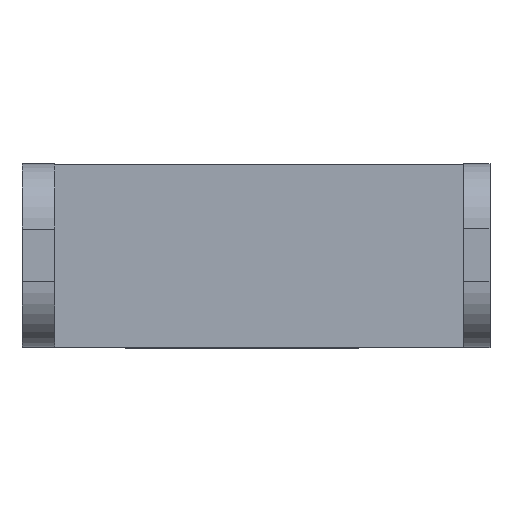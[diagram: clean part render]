
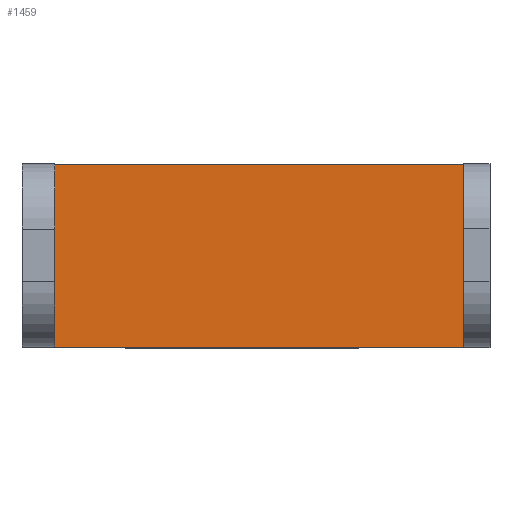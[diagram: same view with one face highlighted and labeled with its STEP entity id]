
A CAD part, top view. The second image highlights one B-rep face of the part: STEP entity #1459.
In plain terms, the highlighted planar face has unit normal (0, 0, 1).
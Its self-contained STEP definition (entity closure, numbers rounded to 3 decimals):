
#165=FACE_OUTER_BOUND('',#260,.T.);
#260=EDGE_LOOP('',(#1322,#1323,#1324,#1325));
#395=LINE('',#2251,#562);
#405=LINE('',#2281,#572);
#410=LINE('',#2289,#577);
#430=LINE('',#2371,#597);
#562=VECTOR('',#1824,10.);
#572=VECTOR('',#1850,10.);
#577=VECTOR('',#1857,10.);
#597=VECTOR('',#1955,10.);
#692=VERTEX_POINT('',#2248);
#693=VERTEX_POINT('',#2250);
#704=VERTEX_POINT('',#2278);
#705=VERTEX_POINT('',#2280);
#869=EDGE_CURVE('',#693,#692,#395,.T.);
#884=EDGE_CURVE('',#705,#704,#405,.T.);
#889=EDGE_CURVE('',#704,#693,#410,.T.);
#930=EDGE_CURVE('',#692,#705,#430,.T.);
#1322=ORIENTED_EDGE('',*,*,#884,.T.);
#1323=ORIENTED_EDGE('',*,*,#889,.T.);
#1324=ORIENTED_EDGE('',*,*,#869,.T.);
#1325=ORIENTED_EDGE('',*,*,#930,.T.);
#1388=PLANE('',#1580);
#1459=ADVANCED_FACE('',(#165),#1388,.T.);
#1580=AXIS2_PLACEMENT_3D('',#2372,#1956,#1957);
#1824=DIRECTION('',(1.,0.,0.));
#1850=DIRECTION('',(-1.,0.,0.));
#1857=DIRECTION('',(0.,-1.,0.));
#1955=DIRECTION('',(0.,1.,0.));
#1956=DIRECTION('center_axis',(0.,0.,1.));
#1957=DIRECTION('ref_axis',(1.,0.,0.));
#2248=CARTESIAN_POINT('',(15.85,-7.,2.));
#2250=CARTESIAN_POINT('',(-15.35,-7.,2.));
#2251=CARTESIAN_POINT('',(17.85,-7.,2.));
#2278=CARTESIAN_POINT('',(-15.35,7.,2.));
#2280=CARTESIAN_POINT('',(15.85,7.,2.));
#2281=CARTESIAN_POINT('',(-17.85,7.,2.));
#2289=CARTESIAN_POINT('',(-15.35,7.,2.));
#2371=CARTESIAN_POINT('',(15.85,7.,2.));
#2372=CARTESIAN_POINT('Origin',(0.25,0.,
2.));
